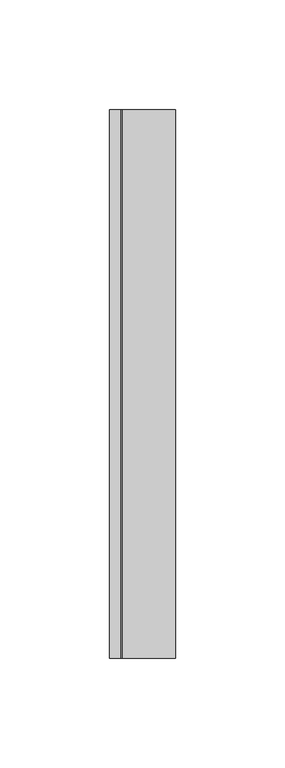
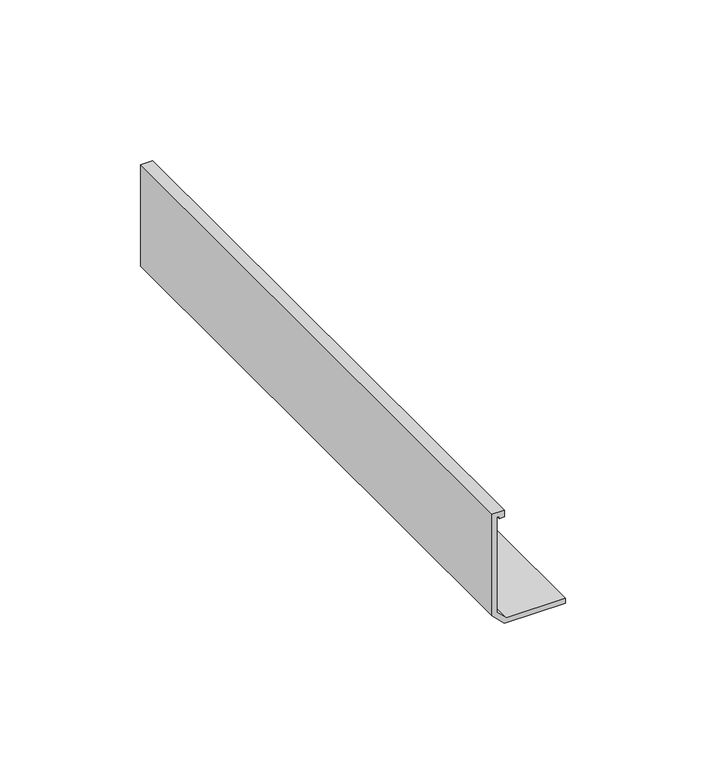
"""IFC4 building model written with IfcOpenShell, lengths in millimetres: proxy geometry, JUBPE_Juction_H60-Basorplast : Basorplast JUBPE 60."""

from ifc_helpers import new_model, si_unit, frame, origin, place, context, project, spatial, polyline, outline, extrude, source, transform, mapped, element, save


def generic_models_967abdb5(model_context):
    return source(origin(), model_context, "Body", "SweptSolid", [
        extrude(outline(polyline([(5.8284271, 2.0), (47.0, 2.0), (47.0, 3.0), (46.1213846, 3.0), (46.1213846, 5.0), (49.0, 5.0), (49.0, 0.0), (5.0, 0.0), (0.0, 5.0), (0.0, 30.0), (2.0, 30.0), (2.0, 5.8284271), (5.8284271, 2.0)])), frame((0.0, -125.0, 0.0), z_axis=(0.0, 1.0, 0.0), x_axis=(0.0, 0.0, 1.0)), (0.0, 0.0, 1.0), 250.0),
    ])


if __name__ == "__main__":
    model = new_model("IFC4")
    model_context = context("Model", 3, world=origin())
    ifc_project = project(units=[si_unit("LENGTHUNIT", "METRE", prefix="MILLI")], contexts=[model_context])
    site = spatial("IfcSite", under=ifc_project)
    building = spatial("IfcBuilding", under=site)
    placement = place(None, origin())
    generic_models_shape = generic_models_967abdb5(model_context)
    element("IfcBuildingElementProxy", 1, Name="JUBPE_Juction_H60-Basorplast : Basorplast JUBPE 60", ObjectType="JUBPE_Juction_H60-Basorplast : Basorplast JUBPE 60", at=placement, inside=building, context=model_context, shape_type="MappedRepresentation", body=[
        mapped(generic_models_shape, transform((0.0, 0.0, 0.0), x_axis=(1.0, 0.0, 0.0), y_axis=(0.0, 1.0, 0.0), z_axis=(0.0, 0.0, 1.0))),
    ])
    save(model, "model.ifc")
